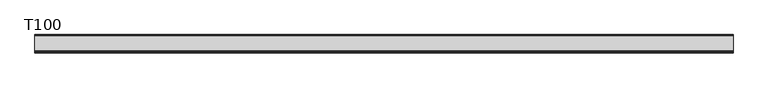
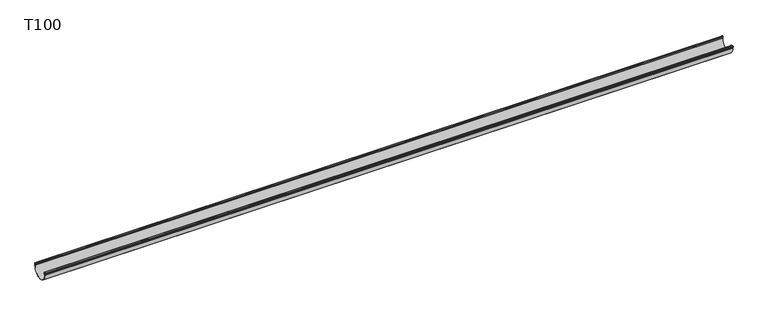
"""IFC4 building model written with IfcOpenShell, lengths in millimetres: proxy geometry, GROVIK_Gutter_Straight : T100."""

from ifc_helpers import new_model, si_unit, point, frame, frame_2d, origin, place, context, project, spatial, polyline, circle_curve, trimmed, segment, composite_curve, outline, extrude, source, transform, mapped, element, save


def t100_2706c048(model_context):
    return source(origin(), model_context, "Body", "SweptSolid", [
        extrude(outline(composite_curve([segment(polyline([(95.6785725, -12.9222473), (100.8871557, -13.3779392)]), True, "CONTINUOUS"), segment(trimmed(circle_curve(frame_2d((100.8, -14.3741339)), 1.0), [point((100.8871557, -13.3779392))], [point((101.8, -14.3741339))], False, "CARTESIAN"), True, "CONTINUOUS"), segment(polyline([(101.8, -14.3741339), (101.8, -16.3578028)]), True, "CONTINUOUS"), segment(trimmed(circle_curve(frame_2d((50.9, -16.3578028)), 50.9), [point((101.8, -16.3578028))], [point((0.0, -16.3578028))], False, "CARTESIAN"), True, "CONTINUOUS"), segment(polyline([(0.0, -16.3578028), (0.0, -0.5)]), True, "CONTINUOUS"), segment(trimmed(circle_curve(frame_2d((0.5, -0.5)), 0.5), [point((0.0, -0.5))], [point((0.8213938, -0.1169778))], False, "CARTESIAN"), True, "CONTINUOUS"), segment(polyline([(0.8213938, -0.1169778), (6.2279844, -4.6536459), (5.6494755, -5.343086), (0.9, -1.3578028), (0.9, -16.3578028)]), True, "CONTINUOUS"), segment(trimmed(circle_curve(frame_2d((50.9, -16.3578028)), 50.0), [point((0.9, -16.3578028))], [point((100.9, -16.3578028))], True, "CARTESIAN"), True, "CONTINUOUS"), segment(polyline([(100.9, -16.3578028), (100.9, -14.2825008), (95.683723, -13.8261357)]), True, "CONTINUOUS"), segment(trimmed(circle_curve(frame_2d((95.683723, -12.9170968)), 0.909039), [point((95.683723, -13.8261357))], [point((94.7746841, -12.9170968))], False, "CARTESIAN"), True, "CONTINUOUS"), segment(polyline([(94.7746841, -12.9170968), (93.9345391, -3.3141955)]), True, "CONTINUOUS"), segment(trimmed(circle_curve(frame_2d((94.9307338, -3.2270397)), 1.0), [point((93.9345391, -3.3141955))], [point((94.7570856, -2.242232))], False, "CARTESIAN"), True, "CONTINUOUS"), segment(polyline([(94.7570856, -2.242232), (104.6051631, -0.5057503)]), True, "CONTINUOUS"), segment(trimmed(circle_curve(frame_2d((104.6923189, -1.501945)), 1.0), [point((104.6051631, -0.5057503))], [point((105.6885136, -1.4147892))], False, "CARTESIAN"), True, "CONTINUOUS"), segment(polyline([(105.6885136, -1.4147892), (106.1850202, -7.0898858)]), True, "CONTINUOUS"), segment(trimmed(circle_curve(frame_2d((105.1888255, -7.1770416)), 1.0), [point((106.1850202, -7.0898858))], [point((105.0151773, -8.1618494))], False, "CARTESIAN"), True, "CONTINUOUS"), segment(polyline([(105.0151773, -8.1618494), (98.1850202, -6.9575084), (98.3413035, -6.0711813), (105.2998033, -7.2981526), (104.7816977, -1.3761787), (94.8220658, -3.1323306), (95.6785725, -12.9222473)]), True, "CONTINUOUS")], self_intersect=False)), frame((4006.7367853, 0.0, -4.0057368), z_axis=(-0.9999995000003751, 0.0, 0.000999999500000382), x_axis=(0.0, -1.0, 0.0)), (0.0, 0.0, 1.0), 4005.7387882),
    ])


if __name__ == "__main__":
    model = new_model("IFC4")
    model_context = context("Model", 3, world=origin())
    ifc_project = project(units=[si_unit("LENGTHUNIT", "METRE", prefix="MILLI")], contexts=[model_context])
    site = spatial("IfcSite", under=ifc_project)
    building = spatial("IfcBuilding", under=site)
    placement = place(None, origin())
    t100_shape = t100_2706c048(model_context)
    element("IfcBuildingElementProxy", 1, Name="GROVIK_Gutter_Straight : T100", ObjectType="GROVIK_Gutter_Straight : T100", at=placement, inside=building, context=model_context, shape_type="MappedRepresentation", body=[
        mapped(t100_shape, transform((0.0, 0.0, 0.0), x_axis=(1.0, 0.0, 0.0), y_axis=(0.0, 1.0, 0.0), z_axis=(0.0, 0.0, 1.0))),
    ])
    save(model, "model.ifc")
